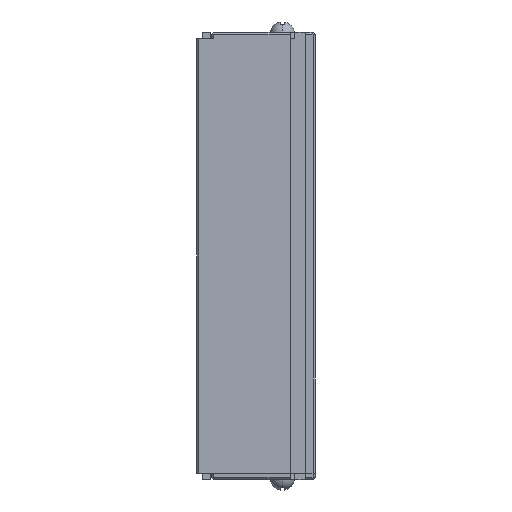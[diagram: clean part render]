
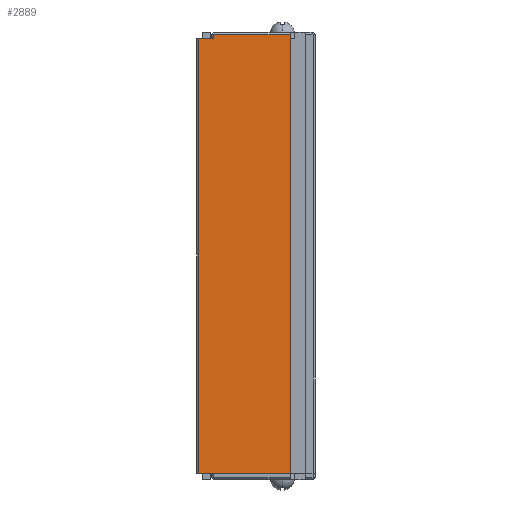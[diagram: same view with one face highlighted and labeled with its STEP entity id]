
A CAD part, left-side view. The second image highlights one B-rep face of the part: STEP entity #2889.
In plain terms, the highlighted planar face has unit normal (-1, 0, 0).
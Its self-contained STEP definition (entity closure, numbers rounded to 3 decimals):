
#370=DIRECTION('',(0.,1.,0.));
#371=VECTOR('',#370,3.303);
#372=CARTESIAN_POINT('',(-14.,13.197,49.5));
#373=LINE('',#372,#371);
#743=DIRECTION('',(0.,1.,0.));
#744=VECTOR('',#743,17.497);
#745=CARTESIAN_POINT('',(-14.,-4.3,50.5));
#746=LINE('',#745,#744);
#759=DIRECTION('',(0.,0.,1.));
#760=VECTOR('',#759,1.);
#761=CARTESIAN_POINT('',(-14.,13.197,49.5));
#762=LINE('',#761,#760);
#763=DIRECTION('',(0.,0.,-1.));
#764=VECTOR('',#763,100.);
#765=CARTESIAN_POINT('',(-14.,-4.3,50.5));
#766=LINE('',#765,#764);
#767=DIRECTION('',(0.,1.,0.));
#768=VECTOR('',#767,20.8);
#769=CARTESIAN_POINT('',(-14.,-4.3,-49.5));
#770=LINE('',#769,#768);
#771=DIRECTION('',(0.,0.,-1.));
#772=VECTOR('',#771,99.);
#773=CARTESIAN_POINT('',(-14.,16.5,49.5));
#774=LINE('',#773,#772);
#1422=CARTESIAN_POINT('',(-14.,16.5,-49.5));
#1423=VERTEX_POINT('',#1422);
#1424=CARTESIAN_POINT('',(-14.,-4.3,-49.5));
#1425=VERTEX_POINT('',#1424);
#1530=CARTESIAN_POINT('',(-14.,16.5,49.5));
#1531=VERTEX_POINT('',#1530);
#1734=CARTESIAN_POINT('',(-14.,13.197,50.5));
#1735=VERTEX_POINT('',#1734);
#1760=CARTESIAN_POINT('',(-14.,-4.3,50.5));
#1761=VERTEX_POINT('',#1760);
#1806=CARTESIAN_POINT('',(-14.,13.197,49.5));
#1808=VERTEX_POINT('',#1806);
#2875=CARTESIAN_POINT('',(-14.,16.5,-49.5));
#2876=DIRECTION('',(-1.,0.,0.));
#2877=DIRECTION('',(0.,-1.,0.));
#2878=AXIS2_PLACEMENT_3D('',#2875,#2876,#2877);
#2879=PLANE('',#2878);
#2880=ORIENTED_EDGE('',*,*,#2519,.F.);
#2881=ORIENTED_EDGE('',*,*,#2840,.T.);
#2882=ORIENTED_EDGE('',*,*,#2855,.F.);
#2883=ORIENTED_EDGE('',*,*,#2865,.T.);
#2884=ORIENTED_EDGE('',*,*,#1897,.T.);
#2886=ORIENTED_EDGE('',*,*,#2885,.F.);
#2887=EDGE_LOOP('',(#2880,#2881,#2882,#2883,#2884,#2886));
#2888=FACE_OUTER_BOUND('',#2887,.F.);
#1897=EDGE_CURVE('',#1425,#1423,#770,.T.);
#2519=EDGE_CURVE('',#1808,#1531,#373,.T.);
#2840=EDGE_CURVE('',#1808,#1735,#762,.T.);
#2855=EDGE_CURVE('',#1761,#1735,#746,.T.);
#2865=EDGE_CURVE('',#1761,#1425,#766,.T.);
#2885=EDGE_CURVE('',#1531,#1423,#774,.T.);
#2889=ADVANCED_FACE('',(#2888),#2879,.T.);
